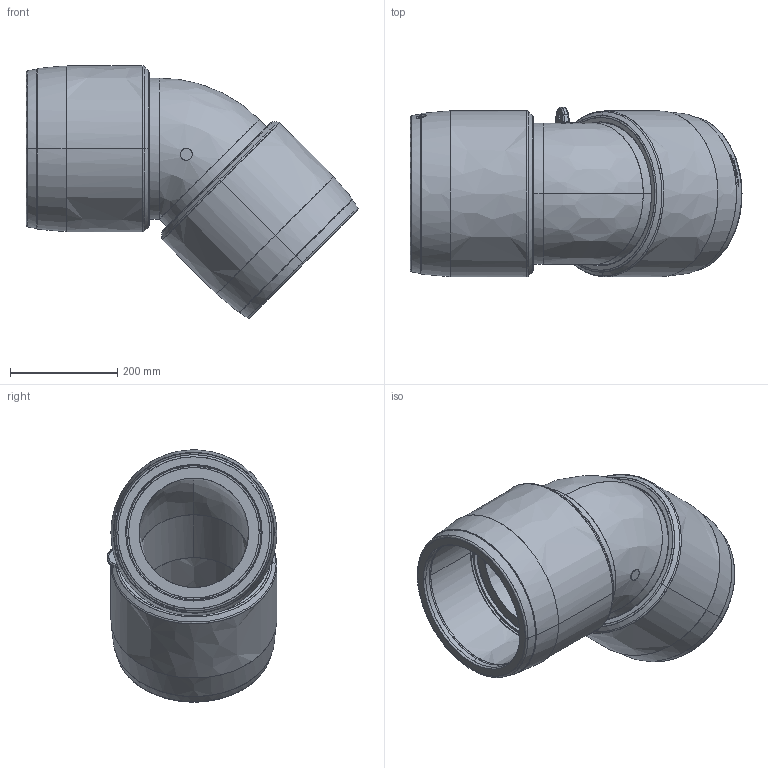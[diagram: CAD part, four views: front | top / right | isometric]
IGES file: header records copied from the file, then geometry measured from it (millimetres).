
Start section:  PTC IGES file: w45-xl_d250.igs
Global section: file name: w45-xl_d250.igs; native system: Pro/ENGINEER by Parametric Technology Corporation; preprocessor: 2011490; author: mtunjic; organization: Unknown; date: 20130729.150348; units: millimetre
Bounding box: 620.49 x 316.99 x 471.49 mm (x, y, z)
Surface area: 1404025.4 mm2 (no closed solid volume)
Topology: 0 solids, 0 shells, 536 faces, 2666 edges, 2664 vertices
Faces by surface type: bspline 536
